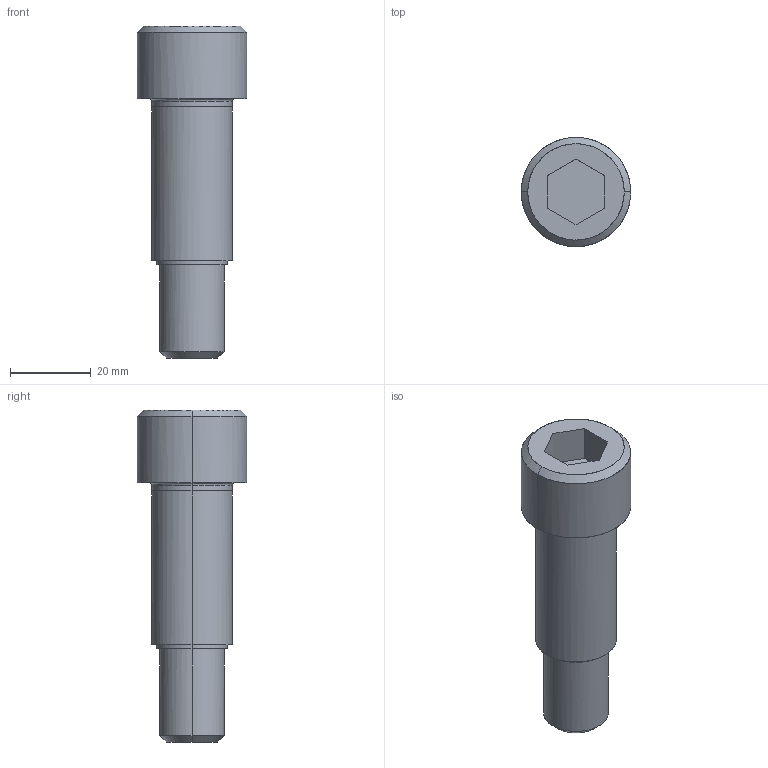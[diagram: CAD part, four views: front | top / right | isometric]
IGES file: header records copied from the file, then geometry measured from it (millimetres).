
Global section: file name: E:\UnigraphicsGraphicData\MISUMI_PRESS-PARTS\IGES\3d_msb20-40_00575_r00.igs; native system: NX V5.0; preprocessor: UGS NX IGES V5.0; author: MISUMI; date: 20110105.161514; units: millimetre
Bounding box: 27 x 27 x 82 mm (x, y, z)
Surface area: 6692.5 mm2 (no closed solid volume)
Topology: 0 solids, 0 shells, 30 faces, 180 edges, 180 vertices
Faces by surface type: bspline 30
